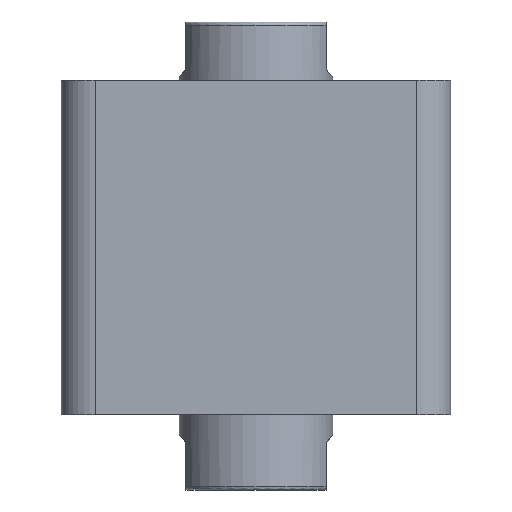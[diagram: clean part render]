
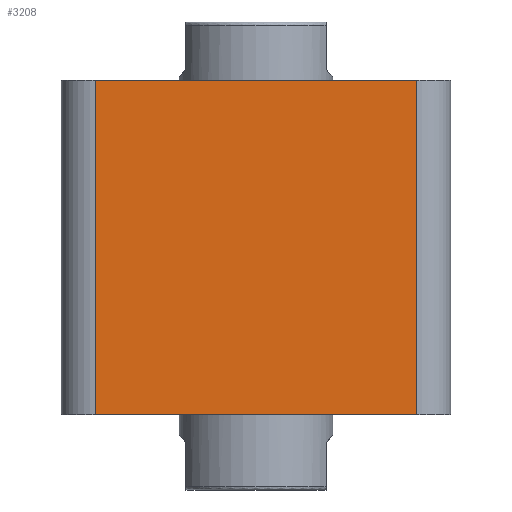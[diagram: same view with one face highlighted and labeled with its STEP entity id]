
A CAD part, front view. The second image highlights one B-rep face of the part: STEP entity #3208.
In plain terms, the highlighted planar face has unit normal (0, -1, 0).
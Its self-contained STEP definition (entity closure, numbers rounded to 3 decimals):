
#453 = CARTESIAN_POINT ( 'NONE',  ( -57., -57., 98. ) ) ;
#455 = PLANE ( 'NONE',  #1963 ) ;
#457 = DIRECTION ( 'NONE',  ( 0., 1., 0. ) ) ;
#458 = DIRECTION ( 'NONE',  ( 0., 0., 1. ) ) ;
#494 = CARTESIAN_POINT ( 'NONE',  ( -57., -57., 98. ) ) ;
#499 = DIRECTION ( 'NONE',  ( 1., 0., 0. ) ) ;
#500 = CARTESIAN_POINT ( 'NONE',  ( 47., -57., 98. ) ) ;
#501 = DIRECTION ( 'NONE',  ( 0., 0., 1. ) ) ;
#974 = EDGE_LOOP ( 'NONE', ( #2940, #2941, #2942, #2943 ) ) ;
#1148 = LINE ( 'NONE', #2275, #1150 ) ;
#1150 = VECTOR ( 'NONE', #2274, 1000. ) ;
#1157 = LINE ( 'NONE', #2303, #1160 ) ;
#1160 = VECTOR ( 'NONE', #2304, 1000. ) ;
#1499 = FACE_OUTER_BOUND ( 'NONE', #974, .T. ) ;
#1518 = VECTOR ( 'NONE', #499, 1000. ) ;
#1519 = LINE ( 'NONE', #500, #1524 ) ;
#1522 = LINE ( 'NONE', #494, #1518 ) ;
#1524 = VECTOR ( 'NONE', #501, 1000. ) ;
#1633 = EDGE_CURVE ( 'NONE', #2816, #2817, #1519, .T. ) ;
#1648 = EDGE_CURVE ( 'NONE', #2804, #2817, #1522, .T. ) ;
#1963 = AXIS2_PLACEMENT_3D ( 'NONE', #453, #457, #458 ) ;
#2047 = EDGE_CURVE ( 'NONE', #2804, #2805, #1148, .T. ) ;
#2058 = EDGE_CURVE ( 'NONE', #2805, #2816, #1157, .T. ) ;
#2274 = DIRECTION ( 'NONE',  ( 0., 0., -1. ) ) ;
#2275 = CARTESIAN_POINT ( 'NONE',  ( -47., -57., 98. ) ) ;
#2303 = CARTESIAN_POINT ( 'NONE',  ( -57., -57., 0. ) ) ;
#2304 = DIRECTION ( 'NONE',  ( 1., 0., 0. ) ) ;
#2623 = CARTESIAN_POINT ( 'NONE',  ( -47., -57., 98. ) ) ;
#2624 = CARTESIAN_POINT ( 'NONE',  ( -47., -57., 0. ) ) ;
#2635 = CARTESIAN_POINT ( 'NONE',  ( 47., -57., 0. ) ) ;
#2636 = CARTESIAN_POINT ( 'NONE',  ( 47., -57., 98. ) ) ;
#2804 = VERTEX_POINT ( 'NONE', #2623 ) ;
#2805 = VERTEX_POINT ( 'NONE', #2624 ) ;
#2816 = VERTEX_POINT ( 'NONE', #2635 ) ;
#2817 = VERTEX_POINT ( 'NONE', #2636 ) ;
#2940 = ORIENTED_EDGE ( 'NONE', *, *, #2058, .T. ) ;
#2941 = ORIENTED_EDGE ( 'NONE', *, *, #1633, .T. ) ;
#2942 = ORIENTED_EDGE ( 'NONE', *, *, #1648, .F. ) ;
#2943 = ORIENTED_EDGE ( 'NONE', *, *, #2047, .T. ) ;
#3208 = ADVANCED_FACE ( 'NONE', ( #1499 ), #455, .F. ) ;
